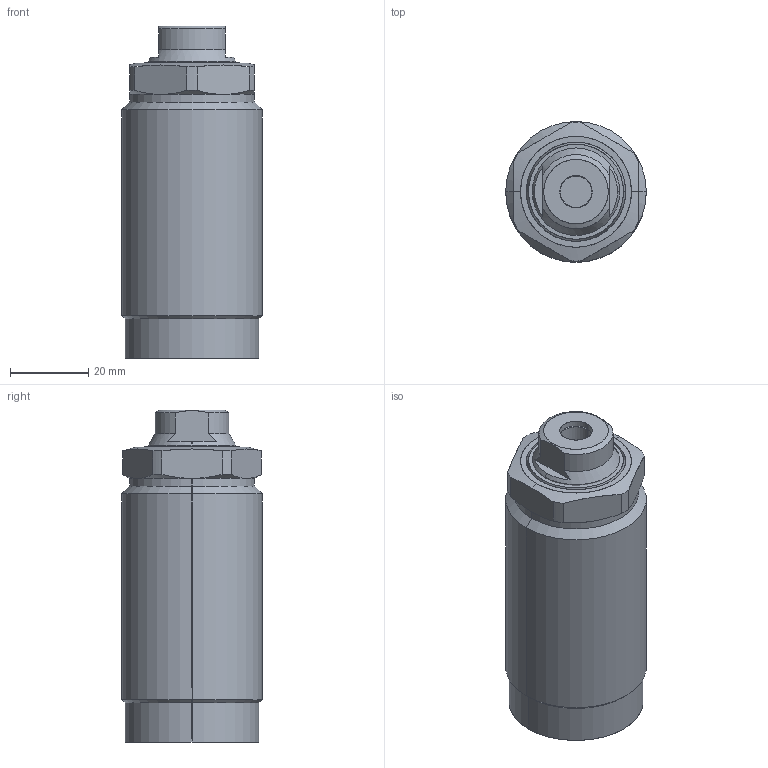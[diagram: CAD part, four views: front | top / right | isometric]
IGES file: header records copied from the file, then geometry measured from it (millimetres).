
Start section: SolidWorks IGES file using analytic representation for surfaces
Global section: file name: D:\abhilash\nijil\cylinder\Clasys1\dp converted\05\pt\0503\0102-0503.IGS; native system: SolidWorks 2010; preprocessor: SolidWorks 2010; author: nidheesh; date: 130730.113410; units: millimetre
Bounding box: 36 x 36 x 85 mm (x, y, z)
Surface area: 13792.5 mm2 (no closed solid volume)
Topology: 0 solids, 0 shells, 70 faces, 1078 edges, 1078 vertices
Faces by surface type: revolution 46, bspline 24
